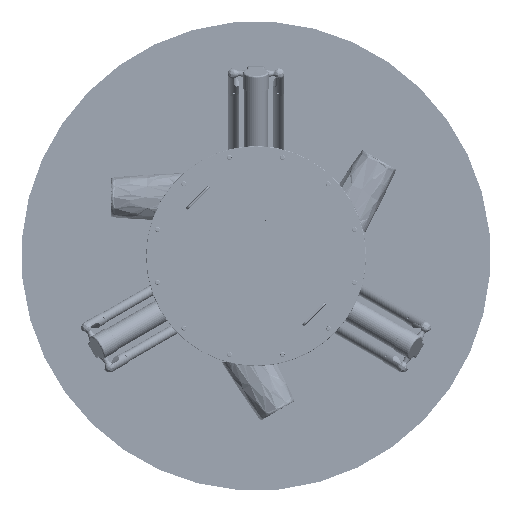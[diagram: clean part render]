
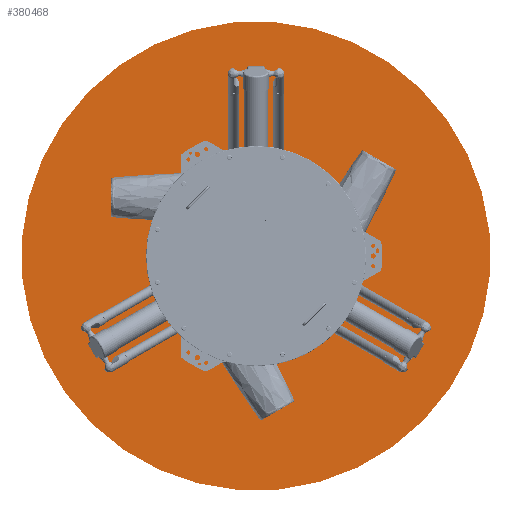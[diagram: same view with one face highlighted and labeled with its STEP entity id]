
A CAD part, front view. The second image highlights one B-rep face of the part: STEP entity #380468.
In plain terms, the highlighted planar face has unit normal (0, -1, 0) as drawn and (0, 1, 0) by its records, which use the part's own axes.
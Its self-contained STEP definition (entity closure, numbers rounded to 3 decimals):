
#34383 = DIRECTION ( 'NONE',  ( 0., -1., 0. ) ) ;
#42825 = AXIS2_PLACEMENT_3D ( 'NONE', #280213, #116769, #346083 ) ;
#72274 = CARTESIAN_POINT ( 'NONE',  ( 0., 400., -800. ) ) ;
#104239 = VERTEX_POINT ( 'NONE', #72274 ) ;
#116769 = DIRECTION ( 'NONE',  ( 0., -1., 0. ) ) ;
#137311 = EDGE_CURVE ( 'NONE', #104239, #104239, #156290, .T. ) ;
#156290 = CIRCLE ( 'NONE', #42825, 800. ) ;
#176650 = EDGE_LOOP ( 'NONE', ( #293525 ) ) ;
#232749 = AXIS2_PLACEMENT_3D ( 'NONE', #373094, #34383, #233603 ) ;
#233603 = DIRECTION ( 'NONE',  ( 0., 0., -1. ) ) ;
#280213 = CARTESIAN_POINT ( 'NONE',  ( 0., 400., 0. ) ) ;
#293525 = ORIENTED_EDGE ( 'NONE', *, *, #137311, .F. ) ;
#338113 = PLANE ( 'NONE',  #232749 ) ;
#346083 = DIRECTION ( 'NONE',  ( 0., 0., -1. ) ) ;
#373094 = CARTESIAN_POINT ( 'NONE',  ( 0., 400., 0. ) ) ;
#380468 = ADVANCED_FACE ( 'NONE', ( #391530 ), #338113, .F. ) ;
#391530 = FACE_OUTER_BOUND ( 'NONE', #176650, .T. ) ;
